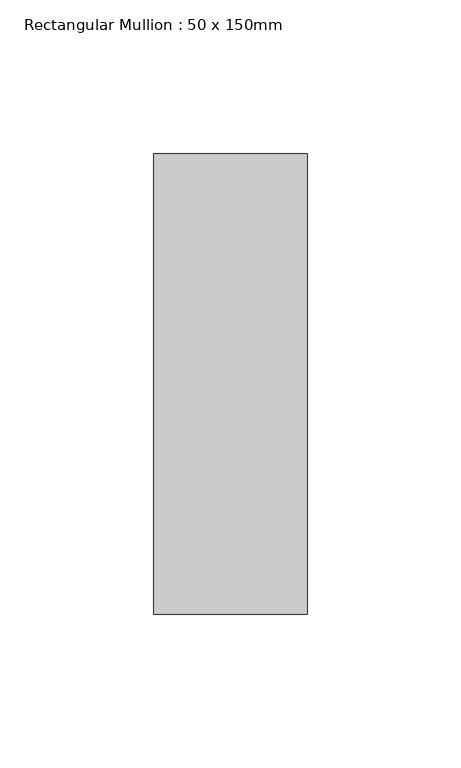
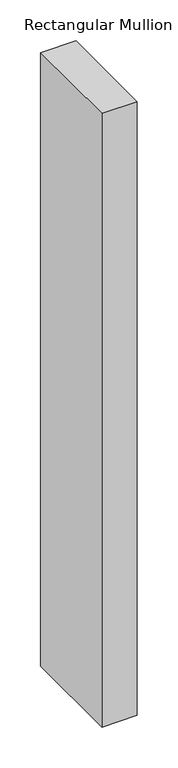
"""IFC4 building model written with IfcOpenShell, lengths in millimetres: member geometry, Rectangular Mullion : 50 x 150mm."""

from ifc_helpers import new_model, si_unit, frame, origin, place, context, project, spatial, polyline, outline, extrude, source, transform, mapped, element, save


def rectangular_mullion_50_x_150mm_3441b6ce(model_context):
    return source(origin(), model_context, "Body", "SweptSolid", [
        extrude(outline(polyline([(0.0, 75.0), (0.0, -75.0), (-50.0, -75.0), (-50.0, 75.0), (0.0, 75.0)])), frame((0.0, 0.0, -918.3333334), z_axis=(0.0, 0.0, 1.0), x_axis=(1.0, 0.0, 0.0)), (0.0, 0.0, 1.0), 918.3333334),
    ])


if __name__ == "__main__":
    model = new_model("IFC4")
    model_context = context("Model", 3, world=origin())
    ifc_project = project(units=[si_unit("LENGTHUNIT", "METRE", prefix="MILLI")], contexts=[model_context])
    site = spatial("IfcSite", under=ifc_project)
    building = spatial("IfcBuilding", under=site)
    placement = place(None, origin())
    rectangular_mullion_50_x_150mm_shape = rectangular_mullion_50_x_150mm_3441b6ce(model_context)
    element("IfcMember", 1, ObjectType="Rectangular Mullion : 50 x 150mm", at=placement, inside=building, context=model_context, shape_type="MappedRepresentation", body=[
        mapped(rectangular_mullion_50_x_150mm_shape, transform((0.0, 0.0, 0.0), x_axis=(1.0, 0.0, 0.0), y_axis=(0.0, 1.0, 0.0), z_axis=(0.0, 0.0, 1.0))),
    ])
    save(model, "model.ifc")
